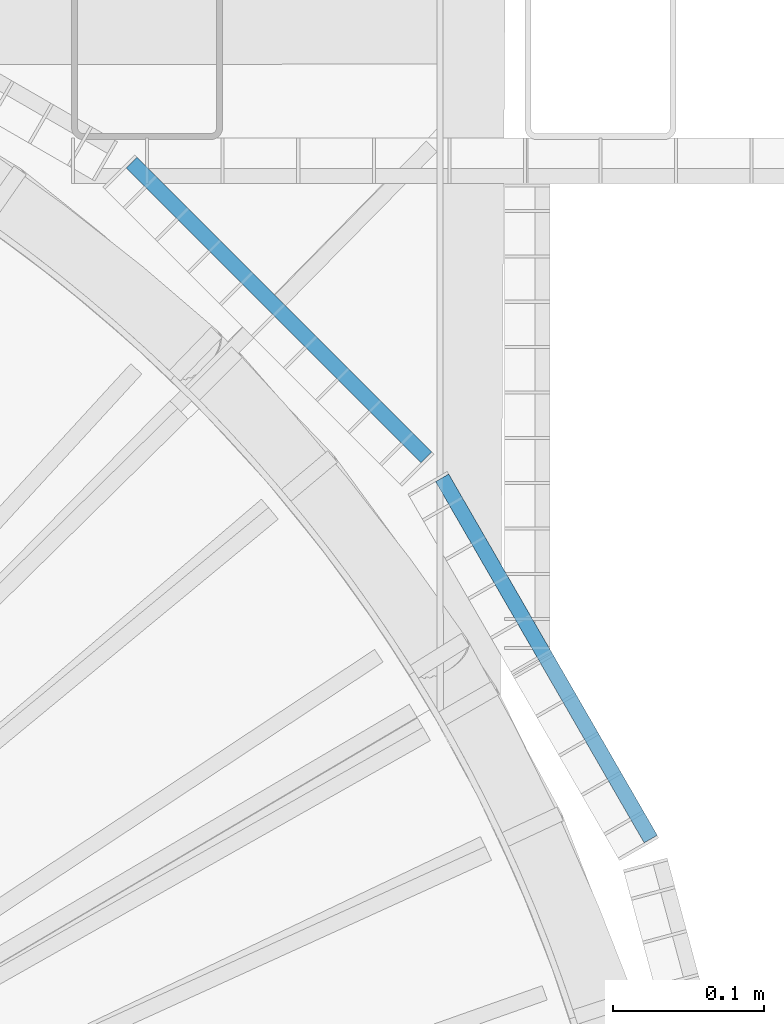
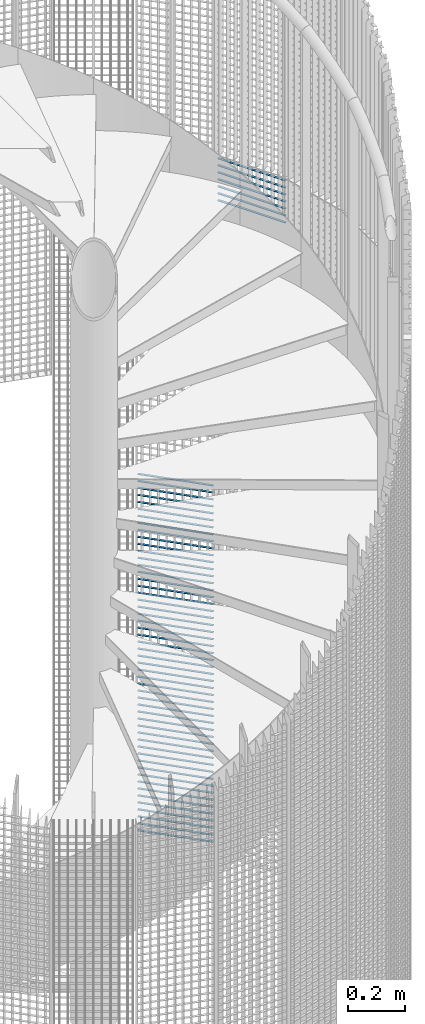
# One storey, part 296 of 1148: 59 beams, 2 elements without a shape of their own.
"""IFC2X3 building model written with IfcOpenShell, lengths in millimetres."""

from ifc_helpers import new_model, si_unit, frame, origin_with_axes, origin_2d_with_axis, place, context, subcontext, project, spatial, rectangle, extrude, material, type_object, element, aggregate, save


model = new_model("IFC2X3")

# Units and contexts
model_context = context("Model", 3, precision=1e-05, world=origin_with_axes())
body_context = subcontext(model_context, "Body", "Model", "MODEL_VIEW")
ifc_project = project(units=[si_unit("LENGTHUNIT", "METRE", prefix="MILLI"), si_unit("AREAUNIT", "SQUARE_METRE"), si_unit("VOLUMEUNIT", "CUBIC_METRE"), si_unit("MASSUNIT", "GRAM", prefix="KILO"), si_unit("TIMEUNIT", "SECOND"), si_unit("PLANEANGLEUNIT", "RADIAN"), si_unit("SOLIDANGLEUNIT", "STERADIAN"), si_unit("THERMODYNAMICTEMPERATUREUNIT", "DEGREE_CELSIUS"), si_unit("LUMINOUSINTENSITYUNIT", "LUMEN")], contexts=[model_context])

# Site, building, storey
site_placement = place(None, origin_with_axes())
site = spatial("IfcSite", under=ifc_project, at=site_placement, Name="Undefined", CompositionType="ELEMENT")
building_placement = place(site_placement, origin_with_axes())
building = spatial("IfcBuilding", under=site, at=building_placement, Name="Undefined", CompositionType="ELEMENT")
storey_placement = place(building_placement, origin_with_axes())
storey = spatial("IfcBuildingStorey", under=building, at=storey_placement, Name="Undefined", CompositionType="ELEMENT", Elevation=0.0)

# Assembly, beams
assembly_1_placement = place(storey_placement, origin_with_axes())
assembly_1 = element("IfcElementAssembly", 1, at=assembly_1_placement, inside=storey, Name="BORDURE", AssemblyPlace="NOTDEFINED", PredefinedType="NOTDEFINED")
ifc_material = material(Name="STEEL/S235JR")
beam_type = type_object("IfcBeamType", Name="PL2*10", PredefinedType="NOTDEFINED")
beam_1_placement = place(assembly_1_placement, frame((884.927168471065, 689.771348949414, 1560.0), z_axis=(0.707106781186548, 0.707106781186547, 0.0), x_axis=(-0.707106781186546, 0.707106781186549, 0.0)))
beam_1 = element("IfcBeam", 2, at=beam_1_placement, type_object=beam_type, material=ifc_material, Name="ENTRETOISE", context=body_context, shape_type="SweptSolid", body=[
    extrude(rectangle(XDim=2.0, YDim=10.0, at=origin_2d_with_axis()), frame((275.999999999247, 9.09494701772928e-13, 1.53210777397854e-14), z_axis=(-1.0, 0.0, 0.0), x_axis=(0.0, -1.0, 0.0)), (0.0, 0.0, 1.0), 276.0),
])
beam_2_placement = place(assembly_1_placement, frame((884.927168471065, 689.771348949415, 1530.0), z_axis=(0.707106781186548, 0.707106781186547, 0.0), x_axis=(-0.707106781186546, 0.707106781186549, 0.0)))
beam_2 = element("IfcBeam", 3, at=beam_2_placement, type_object=beam_type, material=ifc_material, Name="ENTRETOISE", context=body_context, shape_type="SweptSolid", body=[
    extrude(rectangle(XDim=2.0, YDim=10.0, at=origin_2d_with_axis()), frame((275.999999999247, 9.09494701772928e-13, 1.53210777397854e-14), z_axis=(-1.0, 0.0, 0.0), x_axis=(0.0, -1.0, 0.0)), (0.0, 0.0, 1.0), 276.0),
])
beam_3_placement = place(assembly_1_placement, frame((884.927168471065, 689.771348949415, 1500.0), z_axis=(0.707106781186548, 0.707106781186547, 0.0), x_axis=(-0.707106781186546, 0.707106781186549, 0.0)))
beam_3 = element("IfcBeam", 4, at=beam_3_placement, type_object=beam_type, material=ifc_material, Name="ENTRETOISE", context=body_context, shape_type="SweptSolid", body=[
    extrude(rectangle(XDim=2.0, YDim=10.0, at=origin_2d_with_axis()), frame((275.999999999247, 9.09494701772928e-13, 1.53210777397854e-14), z_axis=(-1.0, 0.0, 0.0), x_axis=(0.0, -1.0, 0.0)), (0.0, 0.0, 1.0), 276.0),
])
beam_4_placement = place(assembly_1_placement, frame((884.927168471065, 689.771348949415, 1470.0), z_axis=(0.707106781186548, 0.707106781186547, 0.0), x_axis=(-0.707106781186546, 0.707106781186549, 0.0)))
beam_4 = element("IfcBeam", 5, at=beam_4_placement, type_object=beam_type, material=ifc_material, Name="ENTRETOISE", context=body_context, shape_type="SweptSolid", body=[
    extrude(rectangle(XDim=2.0, YDim=10.0, at=origin_2d_with_axis()), frame((275.999999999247, 9.09494701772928e-13, 1.53210777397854e-14), z_axis=(-1.0, 0.0, 0.0), x_axis=(0.0, -1.0, 0.0)), (0.0, 0.0, 1.0), 276.0),
])
beam_5_placement = place(assembly_1_placement, frame((884.927168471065, 689.771348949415, 1440.0), z_axis=(0.707106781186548, 0.707106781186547, 0.0), x_axis=(-0.707106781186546, 0.707106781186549, 0.0)))
beam_5 = element("IfcBeam", 6, at=beam_5_placement, type_object=beam_type, material=ifc_material, Name="ENTRETOISE", context=body_context, shape_type="SweptSolid", body=[
    extrude(rectangle(XDim=2.0, YDim=10.0, at=origin_2d_with_axis()), frame((275.999999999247, 9.09494701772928e-13, 1.53210777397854e-14), z_axis=(-1.0, 0.0, 0.0), x_axis=(0.0, -1.0, 0.0)), (0.0, 0.0, 1.0), 276.0),
])
beam_6_placement = place(assembly_1_placement, frame((884.927168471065, 689.771348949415, 1410.0), z_axis=(0.707106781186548, 0.707106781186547, 0.0), x_axis=(-0.707106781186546, 0.707106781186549, 0.0)))
beam_6 = element("IfcBeam", 7, at=beam_6_placement, type_object=beam_type, material=ifc_material, Name="ENTRETOISE", context=body_context, shape_type="SweptSolid", body=[
    extrude(rectangle(XDim=2.0, YDim=10.0, at=origin_2d_with_axis()), frame((275.999999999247, 9.09494701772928e-13, 1.53210777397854e-14), z_axis=(-1.0, 0.0, 0.0), x_axis=(0.0, -1.0, 0.0)), (0.0, 0.0, 1.0), 276.0),
])
beam_7_placement = place(assembly_1_placement, frame((884.927168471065, 689.771348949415, 1380.0), z_axis=(0.707106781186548, 0.707106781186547, 0.0), x_axis=(-0.707106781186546, 0.707106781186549, 0.0)))
beam_7 = element("IfcBeam", 8, at=beam_7_placement, type_object=beam_type, material=ifc_material, Name="ENTRETOISE", context=body_context, shape_type="SweptSolid", body=[
    extrude(rectangle(XDim=2.0, YDim=10.0, at=origin_2d_with_axis()), frame((275.999999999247, 9.09494701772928e-13, 1.53210777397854e-14), z_axis=(-1.0, 0.0, 0.0), x_axis=(0.0, -1.0, 0.0)), (0.0, 0.0, 1.0), 276.0),
])
beam_8_placement = place(assembly_1_placement, frame((884.927168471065, 689.771348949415, 1350.0), z_axis=(0.707106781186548, 0.707106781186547, 0.0), x_axis=(-0.707106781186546, 0.707106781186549, 0.0)))
beam_8 = element("IfcBeam", 9, at=beam_8_placement, type_object=beam_type, material=ifc_material, Name="ENTRETOISE", context=body_context, shape_type="SweptSolid", body=[
    extrude(rectangle(XDim=2.0, YDim=10.0, at=origin_2d_with_axis()), frame((275.999999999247, 9.09494701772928e-13, 1.53210777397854e-14), z_axis=(-1.0, 0.0, 0.0), x_axis=(0.0, -1.0, 0.0)), (0.0, 0.0, 1.0), 276.0),
])
beam_9_placement = place(assembly_1_placement, frame((884.927168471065, 689.771348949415, 1320.0), z_axis=(0.707106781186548, 0.707106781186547, 0.0), x_axis=(-0.707106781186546, 0.707106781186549, 0.0)))
beam_9 = element("IfcBeam", 10, at=beam_9_placement, type_object=beam_type, material=ifc_material, Name="ENTRETOISE", context=body_context, shape_type="SweptSolid", body=[
    extrude(rectangle(XDim=2.0, YDim=10.0, at=origin_2d_with_axis()), frame((275.999999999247, 9.09494701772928e-13, 1.53210777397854e-14), z_axis=(-1.0, 0.0, 0.0), x_axis=(0.0, -1.0, 0.0)), (0.0, 0.0, 1.0), 276.0),
])
beam_10_placement = place(assembly_1_placement, frame((884.927168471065, 689.771348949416, 1290.0), z_axis=(0.707106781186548, 0.707106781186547, 0.0), x_axis=(-0.707106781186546, 0.707106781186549, 0.0)))
beam_10 = element("IfcBeam", 11, at=beam_10_placement, type_object=beam_type, material=ifc_material, Name="ENTRETOISE", context=body_context, shape_type="SweptSolid", body=[
    extrude(rectangle(XDim=2.0, YDim=10.0, at=origin_2d_with_axis()), frame((275.999999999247, 9.09494701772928e-13, 1.53210777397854e-14), z_axis=(-1.0, 0.0, 0.0), x_axis=(0.0, -1.0, 0.0)), (0.0, 0.0, 1.0), 276.0),
])
beam_11_placement = place(assembly_1_placement, frame((884.927168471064, 689.771348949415, 1260.0), z_axis=(0.707106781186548, 0.707106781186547, 0.0), x_axis=(-0.707106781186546, 0.707106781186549, 0.0)))
beam_11 = element("IfcBeam", 12, at=beam_11_placement, type_object=beam_type, material=ifc_material, Name="ENTRETOISE", context=body_context, shape_type="SweptSolid", body=[
    extrude(rectangle(XDim=2.0, YDim=10.0, at=origin_2d_with_axis()), frame((275.999999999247, 9.09494701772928e-13, 1.53210777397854e-14), z_axis=(-1.0, 0.0, 0.0), x_axis=(0.0, -1.0, 0.0)), (0.0, 0.0, 1.0), 276.0),
])
beam_12_placement = place(assembly_1_placement, frame((884.927168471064, 689.771348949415, 1230.0), z_axis=(0.707106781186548, 0.707106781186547, 0.0), x_axis=(-0.707106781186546, 0.707106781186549, 0.0)))
beam_12 = element("IfcBeam", 13, at=beam_12_placement, type_object=beam_type, material=ifc_material, Name="ENTRETOISE", context=body_context, shape_type="SweptSolid", body=[
    extrude(rectangle(XDim=2.0, YDim=10.0, at=origin_2d_with_axis()), frame((275.999999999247, 9.09494701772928e-13, 1.53210777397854e-14), z_axis=(-1.0, 0.0, 0.0), x_axis=(0.0, -1.0, 0.0)), (0.0, 0.0, 1.0), 276.0),
])
beam_13_placement = place(assembly_1_placement, frame((884.927168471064, 689.771348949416, 1200.0), z_axis=(0.707106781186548, 0.707106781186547, 0.0), x_axis=(-0.707106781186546, 0.707106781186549, 0.0)))
beam_13 = element("IfcBeam", 14, at=beam_13_placement, type_object=beam_type, material=ifc_material, Name="ENTRETOISE", context=body_context, shape_type="SweptSolid", body=[
    extrude(rectangle(XDim=2.0, YDim=10.0, at=origin_2d_with_axis()), frame((275.999999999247, 9.09494701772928e-13, 1.53210777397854e-14), z_axis=(-1.0, 0.0, 0.0), x_axis=(0.0, -1.0, 0.0)), (0.0, 0.0, 1.0), 276.0),
])
beam_14_placement = place(assembly_1_placement, frame((884.927168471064, 689.771348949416, 1170.0), z_axis=(0.707106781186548, 0.707106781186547, 0.0), x_axis=(-0.707106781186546, 0.707106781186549, 0.0)))
beam_14 = element("IfcBeam", 15, at=beam_14_placement, type_object=beam_type, material=ifc_material, Name="ENTRETOISE", context=body_context, shape_type="SweptSolid", body=[
    extrude(rectangle(XDim=2.0, YDim=10.0, at=origin_2d_with_axis()), frame((275.999999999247, 9.09494701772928e-13, 1.53210777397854e-14), z_axis=(-1.0, 0.0, 0.0), x_axis=(0.0, -1.0, 0.0)), (0.0, 0.0, 1.0), 276.0),
])
beam_15_placement = place(assembly_1_placement, frame((884.927168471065, 689.771348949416, 1140.0), z_axis=(0.707106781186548, 0.707106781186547, 0.0), x_axis=(-0.707106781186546, 0.707106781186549, 0.0)))
beam_15 = element("IfcBeam", 16, at=beam_15_placement, type_object=beam_type, material=ifc_material, Name="ENTRETOISE", context=body_context, shape_type="SweptSolid", body=[
    extrude(rectangle(XDim=2.0, YDim=10.0, at=origin_2d_with_axis()), frame((275.999999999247, 9.09494701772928e-13, 1.53210777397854e-14), z_axis=(-1.0, 0.0, 0.0), x_axis=(0.0, -1.0, 0.0)), (0.0, 0.0, 1.0), 276.0),
])
beam_16_placement = place(assembly_1_placement, frame((884.927168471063, 689.771348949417, 719.999999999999), z_axis=(0.707106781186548, 0.707106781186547, 0.0), x_axis=(-0.707106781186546, 0.707106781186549, 0.0)))
beam_16 = element("IfcBeam", 17, at=beam_16_placement, type_object=beam_type, material=ifc_material, Name="ENTRETOISE", context=body_context, shape_type="SweptSolid", body=[
    extrude(rectangle(XDim=2.0, YDim=10.0, at=origin_2d_with_axis()), frame((275.999999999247, 9.09494701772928e-13, 1.53210777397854e-14), z_axis=(-1.0, 0.0, 0.0), x_axis=(0.0, -1.0, 0.0)), (0.0, 0.0, 1.0), 276.0),
])
beam_17_placement = place(assembly_1_placement, frame((884.927168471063, 689.771348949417, 689.999999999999), z_axis=(0.707106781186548, 0.707106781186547, 0.0), x_axis=(-0.707106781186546, 0.707106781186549, 0.0)))
beam_17 = element("IfcBeam", 18, at=beam_17_placement, type_object=beam_type, material=ifc_material, Name="ENTRETOISE", context=body_context, shape_type="SweptSolid", body=[
    extrude(rectangle(XDim=2.0, YDim=10.0, at=origin_2d_with_axis()), frame((275.999999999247, 9.09494701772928e-13, 1.53210777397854e-14), z_axis=(-1.0, 0.0, 0.0), x_axis=(0.0, -1.0, 0.0)), (0.0, 0.0, 1.0), 276.0),
])
beam_18_placement = place(assembly_1_placement, frame((884.927168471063, 689.771348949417, 749.999999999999), z_axis=(0.707106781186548, 0.707106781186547, 0.0), x_axis=(-0.707106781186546, 0.707106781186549, 0.0)))
beam_18 = element("IfcBeam", 19, at=beam_18_placement, type_object=beam_type, material=ifc_material, Name="ENTRETOISE", context=body_context, shape_type="SweptSolid", body=[
    extrude(rectangle(XDim=2.0, YDim=10.0, at=origin_2d_with_axis()), frame((275.999999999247, 9.09494701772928e-13, 1.53210777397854e-14), z_axis=(-1.0, 0.0, 0.0), x_axis=(0.0, -1.0, 0.0)), (0.0, 0.0, 1.0), 276.0),
])
beam_19_placement = place(assembly_1_placement, frame((884.927168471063, 689.771348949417, 659.999999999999), z_axis=(0.707106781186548, 0.707106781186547, 0.0), x_axis=(-0.707106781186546, 0.707106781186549, 0.0)))
beam_19 = element("IfcBeam", 20, at=beam_19_placement, type_object=beam_type, material=ifc_material, Name="ENTRETOISE", context=body_context, shape_type="SweptSolid", body=[
    extrude(rectangle(XDim=2.0, YDim=10.0, at=origin_2d_with_axis()), frame((275.999999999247, 9.09494701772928e-13, 1.53210777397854e-14), z_axis=(-1.0, 0.0, 0.0), x_axis=(0.0, -1.0, 0.0)), (0.0, 0.0, 1.0), 276.0),
])
beam_20_placement = place(assembly_1_placement, frame((884.927168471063, 689.771348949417, 629.999999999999), z_axis=(0.707106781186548, 0.707106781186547, 0.0), x_axis=(-0.707106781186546, 0.707106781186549, 0.0)))
beam_20 = element("IfcBeam", 21, at=beam_20_placement, type_object=beam_type, material=ifc_material, Name="ENTRETOISE", context=body_context, shape_type="SweptSolid", body=[
    extrude(rectangle(XDim=2.0, YDim=10.0, at=origin_2d_with_axis()), frame((275.999999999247, 9.09494701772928e-13, 1.53210777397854e-14), z_axis=(-1.0, 0.0, 0.0), x_axis=(0.0, -1.0, 0.0)), (0.0, 0.0, 1.0), 276.0),
])
beam_21_placement = place(assembly_1_placement, frame((884.927168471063, 689.771348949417, 779.999999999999), z_axis=(0.707106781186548, 0.707106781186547, 0.0), x_axis=(-0.707106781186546, 0.707106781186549, 0.0)))
beam_21 = element("IfcBeam", 22, at=beam_21_placement, type_object=beam_type, material=ifc_material, Name="ENTRETOISE", context=body_context, shape_type="SweptSolid", body=[
    extrude(rectangle(XDim=2.0, YDim=10.0, at=origin_2d_with_axis()), frame((275.999999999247, 9.09494701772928e-13, 1.53210777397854e-14), z_axis=(-1.0, 0.0, 0.0), x_axis=(0.0, -1.0, 0.0)), (0.0, 0.0, 1.0), 276.0),
])
beam_22_placement = place(assembly_1_placement, frame((884.927168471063, 689.771348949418, 599.999999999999), z_axis=(0.707106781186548, 0.707106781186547, 0.0), x_axis=(-0.707106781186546, 0.707106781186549, 0.0)))
beam_22 = element("IfcBeam", 23, at=beam_22_placement, type_object=beam_type, material=ifc_material, Name="ENTRETOISE", context=body_context, shape_type="SweptSolid", body=[
    extrude(rectangle(XDim=2.0, YDim=10.0, at=origin_2d_with_axis()), frame((275.999999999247, 9.09494701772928e-13, 1.53210777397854e-14), z_axis=(-1.0, 0.0, 0.0), x_axis=(0.0, -1.0, 0.0)), (0.0, 0.0, 1.0), 276.0),
])
beam_23_placement = place(assembly_1_placement, frame((884.927168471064, 689.771348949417, 809.999999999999), z_axis=(0.707106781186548, 0.707106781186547, 0.0), x_axis=(-0.707106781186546, 0.707106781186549, 0.0)))
beam_23 = element("IfcBeam", 24, at=beam_23_placement, type_object=beam_type, material=ifc_material, Name="ENTRETOISE", context=body_context, shape_type="SweptSolid", body=[
    extrude(rectangle(XDim=2.0, YDim=10.0, at=origin_2d_with_axis()), frame((275.999999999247, 9.09494701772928e-13, 1.53210777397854e-14), z_axis=(-1.0, 0.0, 0.0), x_axis=(0.0, -1.0, 0.0)), (0.0, 0.0, 1.0), 276.0),
])
beam_24_placement = place(assembly_1_placement, frame((884.927168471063, 689.771348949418, 569.999999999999), z_axis=(0.707106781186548, 0.707106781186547, 0.0), x_axis=(-0.707106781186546, 0.707106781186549, 0.0)))
beam_24 = element("IfcBeam", 25, at=beam_24_placement, type_object=beam_type, material=ifc_material, Name="ENTRETOISE", context=body_context, shape_type="SweptSolid", body=[
    extrude(rectangle(XDim=2.0, YDim=10.0, at=origin_2d_with_axis()), frame((275.999999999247, 9.09494701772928e-13, 1.53210777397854e-14), z_axis=(-1.0, 0.0, 0.0), x_axis=(0.0, -1.0, 0.0)), (0.0, 0.0, 1.0), 276.0),
])
beam_25_placement = place(assembly_1_placement, frame((884.927168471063, 689.771348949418, 539.999999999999), z_axis=(0.707106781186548, 0.707106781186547, 0.0), x_axis=(-0.707106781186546, 0.707106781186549, 0.0)))
beam_25 = element("IfcBeam", 26, at=beam_25_placement, type_object=beam_type, material=ifc_material, Name="ENTRETOISE", context=body_context, shape_type="SweptSolid", body=[
    extrude(rectangle(XDim=2.0, YDim=10.0, at=origin_2d_with_axis()), frame((275.999999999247, 9.09494701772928e-13, 1.53210777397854e-14), z_axis=(-1.0, 0.0, 0.0), x_axis=(0.0, -1.0, 0.0)), (0.0, 0.0, 1.0), 276.0),
])
beam_26_placement = place(assembly_1_placement, frame((884.927168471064, 689.771348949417, 839.999999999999), z_axis=(0.707106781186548, 0.707106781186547, 0.0), x_axis=(-0.707106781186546, 0.707106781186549, 0.0)))
beam_26 = element("IfcBeam", 27, at=beam_26_placement, type_object=beam_type, material=ifc_material, Name="ENTRETOISE", context=body_context, shape_type="SweptSolid", body=[
    extrude(rectangle(XDim=2.0, YDim=10.0, at=origin_2d_with_axis()), frame((275.999999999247, 9.09494701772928e-13, 1.53210777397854e-14), z_axis=(-1.0, 0.0, 0.0), x_axis=(0.0, -1.0, 0.0)), (0.0, 0.0, 1.0), 276.0),
])
beam_27_placement = place(assembly_1_placement, frame((884.927168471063, 689.771348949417, 509.999999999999), z_axis=(0.707106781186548, 0.707106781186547, 0.0), x_axis=(-0.707106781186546, 0.707106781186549, 0.0)))
beam_27 = element("IfcBeam", 28, at=beam_27_placement, type_object=beam_type, material=ifc_material, Name="ENTRETOISE", context=body_context, shape_type="SweptSolid", body=[
    extrude(rectangle(XDim=2.0, YDim=10.0, at=origin_2d_with_axis()), frame((275.999999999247, 9.09494701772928e-13, 1.53210777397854e-14), z_axis=(-1.0, 0.0, 0.0), x_axis=(0.0, -1.0, 0.0)), (0.0, 0.0, 1.0), 276.0),
])
beam_28_placement = place(assembly_1_placement, frame((884.927168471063, 689.771348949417, 479.999999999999), z_axis=(0.707106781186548, 0.707106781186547, 0.0), x_axis=(-0.707106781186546, 0.707106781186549, 0.0)))
beam_28 = element("IfcBeam", 29, at=beam_28_placement, type_object=beam_type, material=ifc_material, Name="ENTRETOISE", context=body_context, shape_type="SweptSolid", body=[
    extrude(rectangle(XDim=2.0, YDim=10.0, at=origin_2d_with_axis()), frame((275.999999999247, 9.09494701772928e-13, 1.53210777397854e-14), z_axis=(-1.0, 0.0, 0.0), x_axis=(0.0, -1.0, 0.0)), (0.0, 0.0, 1.0), 276.0),
])
beam_29_placement = place(assembly_1_placement, frame((884.927168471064, 689.771348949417, 869.999999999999), z_axis=(0.707106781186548, 0.707106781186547, 0.0), x_axis=(-0.707106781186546, 0.707106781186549, 0.0)))
beam_29 = element("IfcBeam", 30, at=beam_29_placement, type_object=beam_type, material=ifc_material, Name="ENTRETOISE", context=body_context, shape_type="SweptSolid", body=[
    extrude(rectangle(XDim=2.0, YDim=10.0, at=origin_2d_with_axis()), frame((275.999999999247, 9.09494701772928e-13, 1.53210777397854e-14), z_axis=(-1.0, 0.0, 0.0), x_axis=(0.0, -1.0, 0.0)), (0.0, 0.0, 1.0), 276.0),
])
beam_30_placement = place(assembly_1_placement, frame((884.927168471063, 689.771348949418, 449.999999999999), z_axis=(0.707106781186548, 0.707106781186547, 0.0), x_axis=(-0.707106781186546, 0.707106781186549, 0.0)))
beam_30 = element("IfcBeam", 31, at=beam_30_placement, type_object=beam_type, material=ifc_material, Name="ENTRETOISE", context=body_context, shape_type="SweptSolid", body=[
    extrude(rectangle(XDim=2.0, YDim=10.0, at=origin_2d_with_axis()), frame((275.999999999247, 9.09494701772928e-13, 1.53210777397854e-14), z_axis=(-1.0, 0.0, 0.0), x_axis=(0.0, -1.0, 0.0)), (0.0, 0.0, 1.0), 276.0),
])
beam_31_placement = place(assembly_1_placement, frame((884.927168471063, 689.771348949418, 419.999999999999), z_axis=(0.707106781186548, 0.707106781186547, 0.0), x_axis=(-0.707106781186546, 0.707106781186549, 0.0)))
beam_31 = element("IfcBeam", 32, at=beam_31_placement, type_object=beam_type, material=ifc_material, Name="ENTRETOISE", context=body_context, shape_type="SweptSolid", body=[
    extrude(rectangle(XDim=2.0, YDim=10.0, at=origin_2d_with_axis()), frame((275.999999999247, 9.09494701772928e-13, 1.53210777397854e-14), z_axis=(-1.0, 0.0, 0.0), x_axis=(0.0, -1.0, 0.0)), (0.0, 0.0, 1.0), 276.0),
])
beam_32_placement = place(assembly_1_placement, frame((884.927168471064, 689.771348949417, 899.999999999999), z_axis=(0.707106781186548, 0.707106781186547, 0.0), x_axis=(-0.707106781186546, 0.707106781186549, 0.0)))
beam_32 = element("IfcBeam", 33, at=beam_32_placement, type_object=beam_type, material=ifc_material, Name="ENTRETOISE", context=body_context, shape_type="SweptSolid", body=[
    extrude(rectangle(XDim=2.0, YDim=10.0, at=origin_2d_with_axis()), frame((275.999999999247, 9.09494701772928e-13, 1.53210777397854e-14), z_axis=(-1.0, 0.0, 0.0), x_axis=(0.0, -1.0, 0.0)), (0.0, 0.0, 1.0), 276.0),
])
beam_33_placement = place(assembly_1_placement, frame((884.927168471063, 689.771348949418, 389.999999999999), z_axis=(0.707106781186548, 0.707106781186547, 0.0), x_axis=(-0.707106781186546, 0.707106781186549, 0.0)))
beam_33 = element("IfcBeam", 34, at=beam_33_placement, type_object=beam_type, material=ifc_material, Name="ENTRETOISE", context=body_context, shape_type="SweptSolid", body=[
    extrude(rectangle(XDim=2.0, YDim=10.0, at=origin_2d_with_axis()), frame((275.999999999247, 9.09494701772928e-13, 1.53210777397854e-14), z_axis=(-1.0, 0.0, 0.0), x_axis=(0.0, -1.0, 0.0)), (0.0, 0.0, 1.0), 276.0),
])
beam_34_placement = place(assembly_1_placement, frame((884.927168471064, 689.771348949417, 929.999999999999), z_axis=(0.707106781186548, 0.707106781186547, 0.0), x_axis=(-0.707106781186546, 0.707106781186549, 0.0)))
beam_34 = element("IfcBeam", 35, at=beam_34_placement, type_object=beam_type, material=ifc_material, Name="ENTRETOISE", context=body_context, shape_type="SweptSolid", body=[
    extrude(rectangle(XDim=2.0, YDim=10.0, at=origin_2d_with_axis()), frame((275.999999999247, 9.09494701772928e-13, 1.53210777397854e-14), z_axis=(-1.0, 0.0, 0.0), x_axis=(0.0, -1.0, 0.0)), (0.0, 0.0, 1.0), 276.0),
])
beam_35_placement = place(assembly_1_placement, frame((884.927168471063, 689.771348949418, 359.999999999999), z_axis=(0.707106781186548, 0.707106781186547, 0.0), x_axis=(-0.707106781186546, 0.707106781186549, 0.0)))
beam_35 = element("IfcBeam", 36, at=beam_35_placement, type_object=beam_type, material=ifc_material, Name="ENTRETOISE", context=body_context, shape_type="SweptSolid", body=[
    extrude(rectangle(XDim=2.0, YDim=10.0, at=origin_2d_with_axis()), frame((275.999999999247, 9.09494701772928e-13, 1.53210777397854e-14), z_axis=(-1.0, 0.0, 0.0), x_axis=(0.0, -1.0, 0.0)), (0.0, 0.0, 1.0), 276.0),
])
beam_36_placement = place(assembly_1_placement, frame((884.927168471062, 689.771348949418, 329.999999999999), z_axis=(0.707106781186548, 0.707106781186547, 0.0), x_axis=(-0.707106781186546, 0.707106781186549, 0.0)))
beam_36 = element("IfcBeam", 37, at=beam_36_placement, type_object=beam_type, material=ifc_material, Name="ENTRETOISE", context=body_context, shape_type="SweptSolid", body=[
    extrude(rectangle(XDim=2.0, YDim=10.0, at=origin_2d_with_axis()), frame((275.999999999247, 9.09494701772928e-13, 1.53210777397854e-14), z_axis=(-1.0, 0.0, 0.0), x_axis=(0.0, -1.0, 0.0)), (0.0, 0.0, 1.0), 276.0),
])
beam_37_placement = place(assembly_1_placement, frame((884.927168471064, 689.771348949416, 959.999999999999), z_axis=(0.707106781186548, 0.707106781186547, 0.0), x_axis=(-0.707106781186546, 0.707106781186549, 0.0)))
beam_37 = element("IfcBeam", 38, at=beam_37_placement, type_object=beam_type, material=ifc_material, Name="ENTRETOISE", context=body_context, shape_type="SweptSolid", body=[
    extrude(rectangle(XDim=2.0, YDim=10.0, at=origin_2d_with_axis()), frame((275.999999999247, 9.09494701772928e-13, 1.53210777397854e-14), z_axis=(-1.0, 0.0, 0.0), x_axis=(0.0, -1.0, 0.0)), (0.0, 0.0, 1.0), 276.0),
])
beam_38_placement = place(assembly_1_placement, frame((884.927168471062, 689.771348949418, 299.999999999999), z_axis=(0.707106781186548, 0.707106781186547, 0.0), x_axis=(-0.707106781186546, 0.707106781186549, 0.0)))
beam_38 = element("IfcBeam", 39, at=beam_38_placement, type_object=beam_type, material=ifc_material, Name="ENTRETOISE", context=body_context, shape_type="SweptSolid", body=[
    extrude(rectangle(XDim=2.0, YDim=10.0, at=origin_2d_with_axis()), frame((275.999999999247, 9.09494701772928e-13, 1.53210777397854e-14), z_axis=(-1.0, 0.0, 0.0), x_axis=(0.0, -1.0, 0.0)), (0.0, 0.0, 1.0), 276.0),
])
beam_39_placement = place(assembly_1_placement, frame((884.927168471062, 689.771348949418, 269.999999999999), z_axis=(0.707106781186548, 0.707106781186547, 0.0), x_axis=(-0.707106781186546, 0.707106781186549, 0.0)))
beam_39 = element("IfcBeam", 40, at=beam_39_placement, type_object=beam_type, material=ifc_material, Name="ENTRETOISE", context=body_context, shape_type="SweptSolid", body=[
    extrude(rectangle(XDim=2.0, YDim=10.0, at=origin_2d_with_axis()), frame((275.999999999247, 9.09494701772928e-13, 1.53210777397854e-14), z_axis=(-1.0, 0.0, 0.0), x_axis=(0.0, -1.0, 0.0)), (0.0, 0.0, 1.0), 276.0),
])
beam_40_placement = place(assembly_1_placement, frame((884.927168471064, 689.771348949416, 989.999999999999), z_axis=(0.707106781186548, 0.707106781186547, 0.0), x_axis=(-0.707106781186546, 0.707106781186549, 0.0)))
beam_40 = element("IfcBeam", 41, at=beam_40_placement, type_object=beam_type, material=ifc_material, Name="ENTRETOISE", context=body_context, shape_type="SweptSolid", body=[
    extrude(rectangle(XDim=2.0, YDim=10.0, at=origin_2d_with_axis()), frame((275.999999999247, 9.09494701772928e-13, 1.53210777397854e-14), z_axis=(-1.0, 0.0, 0.0), x_axis=(0.0, -1.0, 0.0)), (0.0, 0.0, 1.0), 276.0),
])
beam_41_placement = place(assembly_1_placement, frame((884.927168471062, 689.771348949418, 239.999999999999), z_axis=(0.707106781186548, 0.707106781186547, 0.0), x_axis=(-0.707106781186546, 0.707106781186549, 0.0)))
beam_41 = element("IfcBeam", 42, at=beam_41_placement, type_object=beam_type, material=ifc_material, Name="ENTRETOISE", context=body_context, shape_type="SweptSolid", body=[
    extrude(rectangle(XDim=2.0, YDim=10.0, at=origin_2d_with_axis()), frame((275.999999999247, 9.09494701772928e-13, 1.53210777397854e-14), z_axis=(-1.0, 0.0, 0.0), x_axis=(0.0, -1.0, 0.0)), (0.0, 0.0, 1.0), 276.0),
])
beam_42_placement = place(assembly_1_placement, frame((884.927168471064, 689.771348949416, 1020.0), z_axis=(0.707106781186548, 0.707106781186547, 0.0), x_axis=(-0.707106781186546, 0.707106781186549, 0.0)))
beam_42 = element("IfcBeam", 43, at=beam_42_placement, type_object=beam_type, material=ifc_material, Name="ENTRETOISE", context=body_context, shape_type="SweptSolid", body=[
    extrude(rectangle(XDim=2.0, YDim=10.0, at=origin_2d_with_axis()), frame((275.999999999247, 9.09494701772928e-13, 1.53210777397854e-14), z_axis=(-1.0, 0.0, 0.0), x_axis=(0.0, -1.0, 0.0)), (0.0, 0.0, 1.0), 276.0),
])
beam_43_placement = place(assembly_1_placement, frame((884.927168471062, 689.771348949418, 209.999999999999), z_axis=(0.707106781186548, 0.707106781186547, 0.0), x_axis=(-0.707106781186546, 0.707106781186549, 0.0)))
beam_43 = element("IfcBeam", 44, at=beam_43_placement, type_object=beam_type, material=ifc_material, Name="ENTRETOISE", context=body_context, shape_type="SweptSolid", body=[
    extrude(rectangle(XDim=2.0, YDim=10.0, at=origin_2d_with_axis()), frame((275.999999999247, 9.09494701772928e-13, 1.53210777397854e-14), z_axis=(-1.0, 0.0, 0.0), x_axis=(0.0, -1.0, 0.0)), (0.0, 0.0, 1.0), 276.0),
])
beam_44_placement = place(assembly_1_placement, frame((884.927168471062, 689.771348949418, 179.999999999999), z_axis=(0.707106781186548, 0.707106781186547, 0.0), x_axis=(-0.707106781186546, 0.707106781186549, 0.0)))
beam_44 = element("IfcBeam", 45, at=beam_44_placement, type_object=beam_type, material=ifc_material, Name="ENTRETOISE", context=body_context, shape_type="SweptSolid", body=[
    extrude(rectangle(XDim=2.0, YDim=10.0, at=origin_2d_with_axis()), frame((275.999999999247, 9.09494701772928e-13, 1.53210777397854e-14), z_axis=(-1.0, 0.0, 0.0), x_axis=(0.0, -1.0, 0.0)), (0.0, 0.0, 1.0), 276.0),
])
beam_45_placement = place(assembly_1_placement, frame((884.927168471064, 689.771348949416, 1050.0), z_axis=(0.707106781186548, 0.707106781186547, 0.0), x_axis=(-0.707106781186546, 0.707106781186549, 0.0)))
beam_45 = element("IfcBeam", 46, at=beam_45_placement, type_object=beam_type, material=ifc_material, Name="ENTRETOISE", context=body_context, shape_type="SweptSolid", body=[
    extrude(rectangle(XDim=2.0, YDim=10.0, at=origin_2d_with_axis()), frame((275.999999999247, 9.09494701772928e-13, 1.53210777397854e-14), z_axis=(-1.0, 0.0, 0.0), x_axis=(0.0, -1.0, 0.0)), (0.0, 0.0, 1.0), 276.0),
])
beam_46_placement = place(assembly_1_placement, frame((884.927168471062, 689.771348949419, 149.999999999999), z_axis=(0.707106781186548, 0.707106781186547, 0.0), x_axis=(-0.707106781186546, 0.707106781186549, 0.0)))
beam_46 = element("IfcBeam", 47, at=beam_46_placement, type_object=beam_type, material=ifc_material, Name="ENTRETOISE", context=body_context, shape_type="SweptSolid", body=[
    extrude(rectangle(XDim=2.0, YDim=10.0, at=origin_2d_with_axis()), frame((275.999999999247, 9.09494701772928e-13, 1.53210777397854e-14), z_axis=(-1.0, 0.0, 0.0), x_axis=(0.0, -1.0, 0.0)), (0.0, 0.0, 1.0), 276.0),
])
beam_47_placement = place(assembly_1_placement, frame((884.927168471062, 689.771348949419, 119.999999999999), z_axis=(0.707106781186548, 0.707106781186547, 0.0), x_axis=(-0.707106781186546, 0.707106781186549, 0.0)))
beam_47 = element("IfcBeam", 48, at=beam_47_placement, type_object=beam_type, material=ifc_material, Name="ENTRETOISE", context=body_context, shape_type="SweptSolid", body=[
    extrude(rectangle(XDim=2.0, YDim=10.0, at=origin_2d_with_axis()), frame((275.999999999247, 9.09494701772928e-13, 1.53210777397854e-14), z_axis=(-1.0, 0.0, 0.0), x_axis=(0.0, -1.0, 0.0)), (0.0, 0.0, 1.0), 276.0),
])
beam_48_placement = place(assembly_1_placement, frame((884.927168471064, 689.771348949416, 1080.0), z_axis=(0.707106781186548, 0.707106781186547, 0.0), x_axis=(-0.707106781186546, 0.707106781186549, 0.0)))
beam_48 = element("IfcBeam", 49, at=beam_48_placement, type_object=beam_type, material=ifc_material, Name="ENTRETOISE", context=body_context, shape_type="SweptSolid", body=[
    extrude(rectangle(XDim=2.0, YDim=10.0, at=origin_2d_with_axis()), frame((275.999999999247, 9.09494701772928e-13, 1.53210777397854e-14), z_axis=(-1.0, 0.0, 0.0), x_axis=(0.0, -1.0, 0.0)), (0.0, 0.0, 1.0), 276.0),
])
beam_49_placement = place(assembly_1_placement, frame((884.927168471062, 689.771348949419, 89.9999999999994), z_axis=(0.707106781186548, 0.707106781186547, 0.0), x_axis=(-0.707106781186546, 0.707106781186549, 0.0)))
beam_49 = element("IfcBeam", 50, at=beam_49_placement, type_object=beam_type, material=ifc_material, Name="ENTRETOISE", context=body_context, shape_type="SweptSolid", body=[
    extrude(rectangle(XDim=2.0, YDim=10.0, at=origin_2d_with_axis()), frame((275.999999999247, 9.09494701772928e-13, 1.53210777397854e-14), z_axis=(-1.0, 0.0, 0.0), x_axis=(0.0, -1.0, 0.0)), (0.0, 0.0, 1.0), 276.0),
])
beam_50_placement = place(assembly_1_placement, frame((884.927168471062, 689.771348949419, 59.9999999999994), z_axis=(0.707106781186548, 0.707106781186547, 0.0), x_axis=(-0.707106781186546, 0.707106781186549, 0.0)))
beam_50 = element("IfcBeam", 51, at=beam_50_placement, type_object=beam_type, material=ifc_material, Name="ENTRETOISE", context=body_context, shape_type="SweptSolid", body=[
    extrude(rectangle(XDim=2.0, YDim=10.0, at=origin_2d_with_axis()), frame((275.999999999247, 9.09494701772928e-13, 1.53210777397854e-14), z_axis=(-1.0, 0.0, 0.0), x_axis=(0.0, -1.0, 0.0)), (0.0, 0.0, 1.0), 276.0),
])
beam_51_placement = place(assembly_1_placement, frame((884.927168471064, 689.771348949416, 1110.0), z_axis=(0.707106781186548, 0.707106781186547, 0.0), x_axis=(-0.707106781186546, 0.707106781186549, 0.0)))
beam_51 = element("IfcBeam", 52, at=beam_51_placement, type_object=beam_type, material=ifc_material, Name="ENTRETOISE", context=body_context, shape_type="SweptSolid", body=[
    extrude(rectangle(XDim=2.0, YDim=10.0, at=origin_2d_with_axis()), frame((275.999999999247, 9.09494701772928e-13, 1.53210777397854e-14), z_axis=(-1.0, 0.0, 0.0), x_axis=(0.0, -1.0, 0.0)), (0.0, 0.0, 1.0), 276.0),
])
beam_52_placement = place(assembly_1_placement, frame((884.92716847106, 689.771348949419, 29.9999999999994), z_axis=(0.707106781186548, 0.707106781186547, 0.0), x_axis=(-0.707106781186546, 0.707106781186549, 0.0)))
beam_52 = element("IfcBeam", 53, at=beam_52_placement, type_object=beam_type, material=ifc_material, Name="ENTRETOISE", context=body_context, shape_type="SweptSolid", body=[
    extrude(rectangle(XDim=2.0, YDim=10.0, at=origin_2d_with_axis()), frame((275.999999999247, 9.09494701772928e-13, 1.53210777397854e-14), z_axis=(-1.0, 0.0, 0.0), x_axis=(0.0, -1.0, 0.0)), (0.0, 0.0, 1.0), 276.0),
])
aggregate(assembly_1, [beam_1, beam_2, beam_3, beam_4, beam_5, beam_6, beam_7, beam_8, beam_9, beam_10, beam_11, beam_12, beam_13, beam_14, beam_15, beam_16, beam_17, beam_18, beam_19, beam_20, beam_21, beam_22, beam_23, beam_24, beam_25, beam_26, beam_27, beam_28, beam_29, beam_30, beam_31, beam_32, beam_33, beam_34, beam_35, beam_36, beam_37, beam_38, beam_39, beam_40, beam_41, beam_42, beam_43, beam_44, beam_45, beam_46, beam_47, beam_48, beam_49, beam_50, beam_51, beam_52])

assembly_2_placement = place(storey_placement, origin_with_axes())
assembly_2 = element("IfcElementAssembly", 54, at=assembly_2_placement, inside=storey, Name="BORDURE", AssemblyPlace="NOTDEFINED", PredefinedType="NOTDEFINED")
beam_53_placement = place(assembly_2_placement, frame((1033.29996828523, 437.231955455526, 2970.0), z_axis=(0.866025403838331, 0.499999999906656, 0.0), x_axis=(-0.49999999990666, 0.866025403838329, 0.0)))
beam_53 = element("IfcBeam", 55, at=beam_53_placement, type_object=beam_type, material=ifc_material, Name="ENTRETOISE", context=body_context, shape_type="SweptSolid", body=[
    extrude(rectangle(XDim=2.0, YDim=10.0, at=origin_2d_with_axis()), frame((275.999999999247, 9.09494701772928e-13, 1.53210777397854e-14), z_axis=(-1.0, 0.0, 0.0), x_axis=(0.0, -1.0, 0.0)), (0.0, 0.0, 1.0), 276.0),
])
beam_54_placement = place(assembly_2_placement, frame((1033.29996828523, 437.231955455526, 2940.0), z_axis=(0.866025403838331, 0.499999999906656, 0.0), x_axis=(-0.49999999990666, 0.866025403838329, 0.0)))
beam_54 = element("IfcBeam", 56, at=beam_54_placement, type_object=beam_type, material=ifc_material, Name="ENTRETOISE", context=body_context, shape_type="SweptSolid", body=[
    extrude(rectangle(XDim=2.0, YDim=10.0, at=origin_2d_with_axis()), frame((275.999999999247, 9.09494701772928e-13, 1.53210777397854e-14), z_axis=(-1.0, 0.0, 0.0), x_axis=(0.0, -1.0, 0.0)), (0.0, 0.0, 1.0), 276.0),
])
beam_55_placement = place(assembly_2_placement, frame((1033.29996828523, 437.231955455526, 2910.0), z_axis=(0.866025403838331, 0.499999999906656, 0.0), x_axis=(-0.49999999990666, 0.866025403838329, 0.0)))
beam_55 = element("IfcBeam", 57, at=beam_55_placement, type_object=beam_type, material=ifc_material, Name="ENTRETOISE", context=body_context, shape_type="SweptSolid", body=[
    extrude(rectangle(XDim=2.0, YDim=10.0, at=origin_2d_with_axis()), frame((275.999999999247, 9.09494701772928e-13, 1.53210777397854e-14), z_axis=(-1.0, 0.0, 0.0), x_axis=(0.0, -1.0, 0.0)), (0.0, 0.0, 1.0), 276.0),
])
beam_56_placement = place(assembly_2_placement, frame((1033.29996828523, 437.231955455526, 2880.0), z_axis=(0.866025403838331, 0.499999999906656, 0.0), x_axis=(-0.49999999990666, 0.866025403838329, 0.0)))
beam_56 = element("IfcBeam", 58, at=beam_56_placement, type_object=beam_type, material=ifc_material, Name="ENTRETOISE", context=body_context, shape_type="SweptSolid", body=[
    extrude(rectangle(XDim=2.0, YDim=10.0, at=origin_2d_with_axis()), frame((275.999999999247, 9.09494701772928e-13, 1.53210777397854e-14), z_axis=(-1.0, 0.0, 0.0), x_axis=(0.0, -1.0, 0.0)), (0.0, 0.0, 1.0), 276.0),
])
beam_57_placement = place(assembly_2_placement, frame((1033.29996828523, 437.231955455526, 2850.0), z_axis=(0.866025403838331, 0.499999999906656, 0.0), x_axis=(-0.49999999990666, 0.866025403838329, 0.0)))
beam_57 = element("IfcBeam", 59, at=beam_57_placement, type_object=beam_type, material=ifc_material, Name="ENTRETOISE", context=body_context, shape_type="SweptSolid", body=[
    extrude(rectangle(XDim=2.0, YDim=10.0, at=origin_2d_with_axis()), frame((275.999999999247, 9.09494701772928e-13, 1.53210777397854e-14), z_axis=(-1.0, 0.0, 0.0), x_axis=(0.0, -1.0, 0.0)), (0.0, 0.0, 1.0), 276.0),
])
beam_58_placement = place(assembly_2_placement, frame((1033.29996828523, 437.231955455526, 2820.0), z_axis=(0.866025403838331, 0.499999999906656, 0.0), x_axis=(-0.49999999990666, 0.866025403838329, 0.0)))
beam_58 = element("IfcBeam", 60, at=beam_58_placement, type_object=beam_type, material=ifc_material, Name="ENTRETOISE", context=body_context, shape_type="SweptSolid", body=[
    extrude(rectangle(XDim=2.0, YDim=10.0, at=origin_2d_with_axis()), frame((275.999999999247, 9.09494701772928e-13, 1.53210777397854e-14), z_axis=(-1.0, 0.0, 0.0), x_axis=(0.0, -1.0, 0.0)), (0.0, 0.0, 1.0), 276.0),
])
beam_59_placement = place(assembly_2_placement, frame((1033.29996828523, 437.231955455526, 2790.0), z_axis=(0.866025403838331, 0.499999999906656, 0.0), x_axis=(-0.49999999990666, 0.866025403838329, 0.0)))
beam_59 = element("IfcBeam", 61, at=beam_59_placement, type_object=beam_type, material=ifc_material, Name="ENTRETOISE", context=body_context, shape_type="SweptSolid", body=[
    extrude(rectangle(XDim=2.0, YDim=10.0, at=origin_2d_with_axis()), frame((275.999999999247, 9.09494701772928e-13, 1.53210777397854e-14), z_axis=(-1.0, 0.0, 0.0), x_axis=(0.0, -1.0, 0.0)), (0.0, 0.0, 1.0), 276.0),
])
aggregate(assembly_2, [beam_53, beam_54, beam_55, beam_56, beam_57, beam_58, beam_59])

save(model, "model.ifc")
